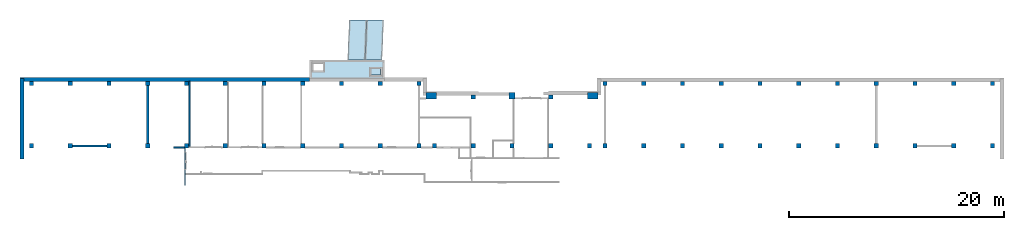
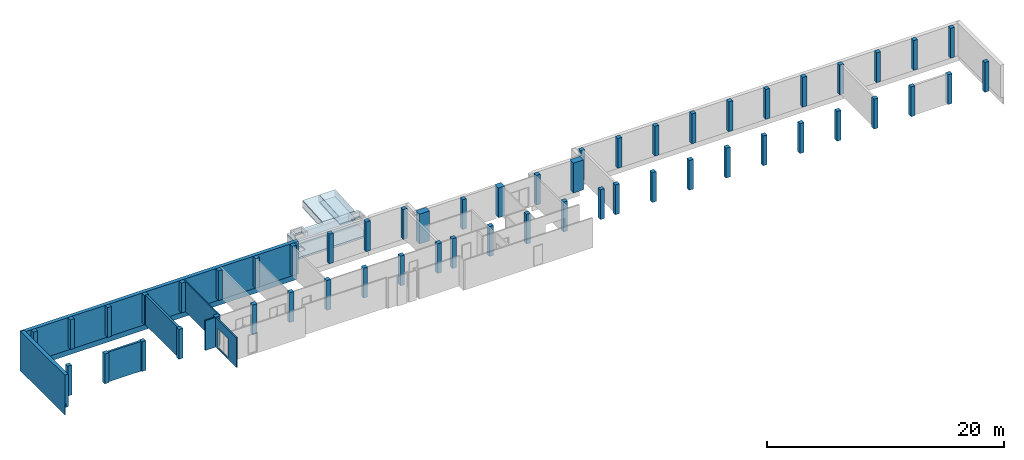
# One storey, part 1 of 6: 54 columns, 7 walls, 6 slabs, 4 openings.
"""IFC4 building model written with IfcOpenShell, lengths in metres."""

from ifc_helpers import new_model, entity, si_unit, converted_unit, derived_unit, frame, frame_2d, origin, origin_with_axes, place, context, subcontext, project, spatial, polyline, rectangle, outline, extrude, clip, bounded_halfspace, material, layer, layer_set, layer_usage, element, save


model = new_model("IFC4")

# Units and contexts
model_context = context("Model", 3, precision=1e-05, world=origin())
body_context = subcontext(model_context, "Body", "Model", "MODEL_VIEW")
ifc_project = project(units=[si_unit("LENGTHUNIT", "METRE"), si_unit("AREAUNIT", "SQUARE_METRE"), si_unit("VOLUMEUNIT", "CUBIC_METRE"), si_unit("MASSUNIT", "GRAM", prefix="KILO"), converted_unit("PLANEANGLEUNIT", "DEGREE", entity("IfcPlaneAngleMeasure", 0.0174532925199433), si_unit("PLANEANGLEUNIT", "RADIAN"), dimensions=[0, 0, 0, 0, 0, 0, 0]), derived_unit("THERMALTRANSMITTANCEUNIT", [(si_unit("POWERUNIT", "WATT"), 1), (si_unit("THERMODYNAMICTEMPERATUREUNIT", "KELVIN"), -1), (si_unit("LENGTHUNIT", "METRE"), -2)]), derived_unit("VOLUMETRICFLOWRATEUNIT", [(si_unit("LENGTHUNIT", "METRE"), 3), (converted_unit("TIMEUNIT", "hour", entity("IfcTimeMeasure", 3600.0), si_unit("TIMEUNIT", "SECOND"), dimensions=[0, 0, 1, 0, 0, 0, 0]), -1), (si_unit("LENGTHUNIT", "METRE"), -1)])], contexts=[model_context])

# Site, building, storey
site_placement = place(None, origin())
site = spatial("IfcSite", under=ifc_project, at=site_placement, Name="3. ASŘ", CompositionType="ELEMENT")
building_placement = place(site_placement, origin())
building = spatial("IfcBuilding", under=site, at=building_placement, Name="Pavilon B", CompositionType="ELEMENT")
storey_placement = place(building_placement, frame((0.0, 0.0, -3.3)))
storey = spatial("IfcBuildingStorey", under=building, at=storey_placement, Name="Půdorys 1.PP", CompositionType="ELEMENT", Elevation=-3.3)

# Columns
ifc_material_1 = material(Name="ZELEZOBETONOVÁ KCE")
column_1_placement = place(storey_placement, frame((47.85, -21.4, -0.12)))
element("IfcColumn", 1, at=column_1_placement, inside=storey, material=ifc_material_1, PredefinedType="COLUMN", context=body_context, shape_type="SweptSolid", body=[
    extrude(rectangle(XDim=0.4, YDim=0.4, at=frame_2d((-0.2, -0.2), x_axis=(-1.0, 0.0))), origin_with_axes(), (0.0, 0.0, 1.0), 3.07),
])
ifc_material_2 = material(Name="ZELEZOBETONOVÁ KCE")
column_2_placement = place(storey_placement, frame((6.80000000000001, -21.4, -0.12)))
element("IfcColumn", 2, at=column_2_placement, inside=storey, material=ifc_material_2, PredefinedType="COLUMN", context=body_context, shape_type="SweptSolid", body=[
    extrude(rectangle(XDim=0.4, YDim=0.4, at=frame_2d((-0.2, -0.2), x_axis=(-1.0, 0.0))), origin_with_axes(), (0.0, 0.0, 1.0), 3.07),
])
ifc_material_3 = material(Name="ZELEZOBETONOVÁ KCE")
column_3_placement = place(storey_placement, frame((3.20000000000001, -21.4, -0.12)))
element("IfcColumn", 3, at=column_3_placement, inside=storey, material=ifc_material_3, PredefinedType="COLUMN", context=body_context, shape_type="SweptSolid", body=[
    extrude(rectangle(XDim=0.4, YDim=0.4, at=frame_2d((-0.2, -0.2), x_axis=(-1.0, 0.0))), origin_with_axes(), (0.0, 0.0, 1.0), 3.07),
])
ifc_material_4 = material(Name="ZELEZOBETONOVÁ KCE")
column_4_placement = place(storey_placement, frame((-0.399999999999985, -21.4, -0.12)))
element("IfcColumn", 4, at=column_4_placement, inside=storey, material=ifc_material_4, PredefinedType="COLUMN", context=body_context, shape_type="SweptSolid", body=[
    extrude(rectangle(XDim=0.4, YDim=0.4, at=frame_2d((-0.2, -0.2), x_axis=(-1.0, 0.0))), origin_with_axes(), (0.0, 0.0, 1.0), 3.07),
])
ifc_material_5 = material(Name="ZELEZOBETONOVÁ KCE")
column_5_placement = place(storey_placement, frame((-3.99999999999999, -15.6, -0.12)))
element("IfcColumn", 5, at=column_5_placement, inside=storey, material=ifc_material_5, PredefinedType="COLUMN", context=body_context, shape_type="SweptSolid", body=[
    extrude(rectangle(XDim=0.4, YDim=0.4, at=frame_2d((-0.2, -0.2), x_axis=(-1.0, 0.0))), origin_with_axes(), (0.0, 0.0, 1.0), 3.07),
])
ifc_material_6 = material(Name="ZELEZOBETONOVÁ KCE")
column_6_placement = place(storey_placement, frame((-3.99999999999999, -21.4, -0.12)))
element("IfcColumn", 6, at=column_6_placement, inside=storey, material=ifc_material_6, PredefinedType="COLUMN", context=body_context, shape_type="SweptSolid", body=[
    extrude(rectangle(XDim=0.4, YDim=0.4, at=frame_2d((-0.2, -0.2), x_axis=(-1.0, 0.0))), origin_with_axes(), (0.0, 0.0, 1.0), 3.07),
])
ifc_material_7 = material(Name="ZELEZOBETONOVÁ KCE")
column_7_placement = place(storey_placement, frame((85.3, -21.4, -0.12)))
element("IfcColumn", 7, at=column_7_placement, inside=storey, material=ifc_material_7, PredefinedType="COLUMN", context=body_context, shape_type="SweptSolid", body=[
    extrude(rectangle(XDim=0.4, YDim=0.4, at=frame_2d((-0.2, -0.2), x_axis=(-1.0, 0.0))), origin_with_axes(), (0.0, 0.0, 1.0), 3.07),
])
ifc_material_8 = material(Name="ZELEZOBETONOVÁ KCE")
column_8_placement = place(storey_placement, frame((52.9, -21.4, -0.12)))
element("IfcColumn", 8, at=column_8_placement, inside=storey, material=ifc_material_8, PredefinedType="COLUMN", context=body_context, shape_type="SweptSolid", body=[
    extrude(rectangle(XDim=0.4, YDim=0.4, at=frame_2d((-0.2, -0.2), x_axis=(-1.0, 0.0))), origin_with_axes(), (0.0, 0.0, 1.0), 3.07),
])
ifc_material_9 = material(Name="ZELEZOBETONOVÁ KCE")
column_9_placement = place(storey_placement, frame((74.5, -21.4, -0.12)))
element("IfcColumn", 9, at=column_9_placement, inside=storey, material=ifc_material_9, PredefinedType="COLUMN", context=body_context, shape_type="SweptSolid", body=[
    extrude(rectangle(XDim=0.4, YDim=0.4, at=frame_2d((-0.2, -0.2), x_axis=(-1.0, 0.0))), origin_with_axes(), (0.0, 0.0, 1.0), 3.07),
])
ifc_material_10 = material(Name="ZELEZOBETONOVÁ KCE")
column_10_placement = place(storey_placement, frame((56.5, -21.4, -0.12)))
element("IfcColumn", 10, at=column_10_placement, inside=storey, material=ifc_material_10, PredefinedType="COLUMN", context=body_context, shape_type="SweptSolid", body=[
    extrude(rectangle(XDim=0.4, YDim=0.4, at=frame_2d((-0.2, -0.2), x_axis=(-1.0, 0.0))), origin_with_axes(), (0.0, 0.0, 1.0), 3.07),
])
ifc_material_11 = material(Name="ZELEZOBETONOVÁ KCE")
column_11_placement = place(storey_placement, frame((60.1, -21.4, -0.12)))
element("IfcColumn", 11, at=column_11_placement, inside=storey, material=ifc_material_11, PredefinedType="COLUMN", context=body_context, shape_type="SweptSolid", body=[
    extrude(rectangle(XDim=0.4, YDim=0.4, at=frame_2d((-0.2, -0.2), x_axis=(-1.0, 0.0))), origin_with_axes(), (0.0, 0.0, 1.0), 3.07),
])
ifc_material_12 = material(Name="ZELEZOBETONOVÁ KCE")
column_12_placement = place(storey_placement, frame((63.7, -21.4, -0.12)))
element("IfcColumn", 12, at=column_12_placement, inside=storey, material=ifc_material_12, PredefinedType="COLUMN", context=body_context, shape_type="SweptSolid", body=[
    extrude(rectangle(XDim=0.4, YDim=0.4, at=frame_2d((-0.2, -0.2), x_axis=(-1.0, 0.0))), origin_with_axes(), (0.0, 0.0, 1.0), 3.07),
])
ifc_material_13 = material(Name="ZELEZOBETONOVÁ KCE")
column_13_placement = place(storey_placement, frame((67.3, -21.4, -0.12)))
element("IfcColumn", 13, at=column_13_placement, inside=storey, material=ifc_material_13, PredefinedType="COLUMN", context=body_context, shape_type="SweptSolid", body=[
    extrude(rectangle(XDim=0.4, YDim=0.4, at=frame_2d((-0.2, -0.2), x_axis=(-1.0, 0.0))), origin_with_axes(), (0.0, 0.0, 1.0), 3.07),
])
ifc_material_14 = material(Name="ZELEZOBETONOVÁ KCE")
column_14_placement = place(storey_placement, frame((70.9, -21.4, -0.12)))
element("IfcColumn", 14, at=column_14_placement, inside=storey, material=ifc_material_14, PredefinedType="COLUMN", context=body_context, shape_type="SweptSolid", body=[
    extrude(rectangle(XDim=0.4, YDim=0.4, at=frame_2d((-0.2, -0.2), x_axis=(-1.0, 0.0))), origin_with_axes(), (0.0, 0.0, 1.0), 3.07),
])
ifc_material_15 = material(Name="ZELEZOBETONOVÁ KCE")
column_15_placement = place(storey_placement, frame((81.7, -21.4, -0.12)))
element("IfcColumn", 15, at=column_15_placement, inside=storey, material=ifc_material_15, PredefinedType="COLUMN", context=body_context, shape_type="SweptSolid", body=[
    extrude(rectangle(XDim=0.4, YDim=0.4, at=frame_2d((-0.2, -0.2), x_axis=(-1.0, 0.0))), origin_with_axes(), (0.0, 0.0, 1.0), 3.07),
])
ifc_material_16 = material(Name="ZELEZOBETONOVÁ KCE")
column_16_placement = place(storey_placement, frame((78.1, -21.4, -0.12)))
element("IfcColumn", 16, at=column_16_placement, inside=storey, material=ifc_material_16, PredefinedType="COLUMN", context=body_context, shape_type="SweptSolid", body=[
    extrude(rectangle(XDim=0.4, YDim=0.4, at=frame_2d((-0.2, -0.2), x_axis=(-1.0, 0.0))), origin_with_axes(), (0.0, 0.0, 1.0), 3.07),
])
ifc_material_17 = material(Name="ZELEZOBETONOVÁ KCE")
column_17_placement = place(storey_placement, frame((49.3, -21.4, -0.12)))
element("IfcColumn", 17, at=column_17_placement, inside=storey, material=ifc_material_17, PredefinedType="COLUMN", context=body_context, shape_type="SweptSolid", body=[
    extrude(rectangle(XDim=0.4, YDim=0.4, at=frame_2d((-0.2, -0.2), x_axis=(-1.0, 0.0))), origin_with_axes(), (0.0, 0.0, 1.0), 3.07),
])
ifc_material_18 = material(Name="ZELEZOBETONOVÁ KCE")
column_18_placement = place(storey_placement, frame((52.9, -15.6, -0.12)))
element("IfcColumn", 18, at=column_18_placement, inside=storey, material=ifc_material_18, PredefinedType="COLUMN", context=body_context, shape_type="SweptSolid", body=[
    extrude(rectangle(XDim=0.4, YDim=0.4, at=frame_2d((-0.2, -0.2), x_axis=(-1.0, 0.0))), origin_with_axes(), (0.0, 0.0, 1.0), 3.07),
])
ifc_material_19 = material(Name="ZELEZOBETONOVÁ KCE")
column_19_placement = place(storey_placement, frame((60.1, -15.6, -0.12)))
element("IfcColumn", 19, at=column_19_placement, inside=storey, material=ifc_material_19, PredefinedType="COLUMN", context=body_context, shape_type="SweptSolid", body=[
    extrude(rectangle(XDim=0.4, YDim=0.4, at=frame_2d((-0.2, -0.2), x_axis=(-1.0, 0.0))), origin_with_axes(), (0.0, 0.0, 1.0), 3.07),
])
ifc_material_20 = material(Name="ZELEZOBETONOVÁ KCE")
column_20_placement = place(storey_placement, frame((67.3, -15.6, -0.12)))
element("IfcColumn", 20, at=column_20_placement, inside=storey, material=ifc_material_20, PredefinedType="COLUMN", context=body_context, shape_type="SweptSolid", body=[
    extrude(rectangle(XDim=0.4, YDim=0.4, at=frame_2d((-0.2, -0.2), x_axis=(-1.0, 0.0))), origin_with_axes(), (0.0, 0.0, 1.0), 3.07),
])
ifc_material_21 = material(Name="ZELEZOBETONOVÁ KCE")
column_21_placement = place(storey_placement, frame((74.5, -15.6, -0.12)))
element("IfcColumn", 21, at=column_21_placement, inside=storey, material=ifc_material_21, PredefinedType="COLUMN", context=body_context, shape_type="SweptSolid", body=[
    extrude(rectangle(XDim=0.4, YDim=0.4, at=frame_2d((-0.2, -0.2), x_axis=(-1.0, 0.0))), origin_with_axes(), (0.0, 0.0, 1.0), 3.07),
])
ifc_material_22 = material(Name="ZELEZOBETONOVÁ KCE")
column_22_placement = place(storey_placement, frame((81.7, -15.6, -0.12)))
element("IfcColumn", 22, at=column_22_placement, inside=storey, material=ifc_material_22, PredefinedType="COLUMN", context=body_context, shape_type="SweptSolid", body=[
    extrude(rectangle(XDim=0.4, YDim=0.4, at=frame_2d((-0.2, -0.2), x_axis=(-1.0, 0.0))), origin_with_axes(), (0.0, 0.0, 1.0), 3.07),
])
ifc_material_23 = material(Name="ZELEZOBETONOVÁ KCE")
column_23_placement = place(storey_placement, frame((85.3, -15.6, -0.12)))
element("IfcColumn", 23, at=column_23_placement, inside=storey, material=ifc_material_23, PredefinedType="COLUMN", context=body_context, shape_type="SweptSolid", body=[
    extrude(rectangle(XDim=0.4, YDim=0.4, at=frame_2d((-0.2, -0.2), x_axis=(-1.0, 0.0))), origin_with_axes(), (0.0, 0.0, 1.0), 3.07),
])
ifc_material_24 = material(Name="ZELEZOBETONOVÁ KCE")
column_24_placement = place(storey_placement, frame((78.1, -15.6, -0.12)))
element("IfcColumn", 24, at=column_24_placement, inside=storey, material=ifc_material_24, PredefinedType="COLUMN", context=body_context, shape_type="SweptSolid", body=[
    extrude(rectangle(XDim=0.4, YDim=0.4, at=frame_2d((-0.2, -0.2), x_axis=(-1.0, 0.0))), origin_with_axes(), (0.0, 0.0, 1.0), 3.07),
])
ifc_material_25 = material(Name="ZELEZOBETONOVÁ KCE")
column_25_placement = place(storey_placement, frame((70.9, -15.6, -0.12)))
element("IfcColumn", 25, at=column_25_placement, inside=storey, material=ifc_material_25, PredefinedType="COLUMN", context=body_context, shape_type="SweptSolid", body=[
    extrude(rectangle(XDim=0.4, YDim=0.4, at=frame_2d((-0.2, -0.2), x_axis=(-1.0, 0.0))), origin_with_axes(), (0.0, 0.0, 1.0), 3.07),
])
ifc_material_26 = material(Name="ZELEZOBETONOVÁ KCE")
column_26_placement = place(storey_placement, frame((63.7, -15.6, -0.12)))
element("IfcColumn", 26, at=column_26_placement, inside=storey, material=ifc_material_26, PredefinedType="COLUMN", context=body_context, shape_type="SweptSolid", body=[
    extrude(rectangle(XDim=0.4, YDim=0.4, at=frame_2d((-0.2, -0.2), x_axis=(-1.0, 0.0))), origin_with_axes(), (0.0, 0.0, 1.0), 3.07),
])
ifc_material_27 = material(Name="ZELEZOBETONOVÁ KCE")
column_27_placement = place(storey_placement, frame((56.5, -15.6, -0.12)))
element("IfcColumn", 27, at=column_27_placement, inside=storey, material=ifc_material_27, PredefinedType="COLUMN", context=body_context, shape_type="SweptSolid", body=[
    extrude(rectangle(XDim=0.4, YDim=0.4, at=frame_2d((-0.2, -0.2), x_axis=(-1.0, 0.0))), origin_with_axes(), (0.0, 0.0, 1.0), 3.07),
])
ifc_material_28 = material(Name="ZELEZOBETONOVÁ KCE")
column_28_placement = place(storey_placement, frame((49.3, -15.6, -0.12)))
element("IfcColumn", 28, at=column_28_placement, inside=storey, material=ifc_material_28, PredefinedType="COLUMN", context=body_context, shape_type="SweptSolid", body=[
    extrude(rectangle(XDim=0.4, YDim=0.4, at=frame_2d((-0.2, -0.2), x_axis=(-1.0, 0.0))), origin_with_axes(), (0.0, 0.0, 1.0), 3.07),
])
ifc_material_29 = material(Name="ZELEZOBETONOVÁ KCE")
column_29_placement = place(storey_placement, frame((32.0, -15.6, -0.12)))
element("IfcColumn", 29, at=column_29_placement, inside=storey, material=ifc_material_29, PredefinedType="COLUMN", context=body_context, shape_type="SweptSolid", body=[
    extrude(rectangle(XDim=0.4, YDim=0.4, at=frame_2d((-0.2, -0.2), x_axis=(-1.0, 0.0))), origin_with_axes(), (0.0, 0.0, 1.0), 3.07),
])
ifc_material_30 = material(Name="ZELEZOBETONOVÁ KCE")
column_30_placement = place(storey_placement, frame((24.8, -15.6, -0.12)))
element("IfcColumn", 30, at=column_30_placement, inside=storey, material=ifc_material_30, PredefinedType="COLUMN", context=body_context, shape_type="SweptSolid", body=[
    extrude(rectangle(XDim=0.4, YDim=0.4, at=frame_2d((-0.2, -0.2), x_axis=(-1.0, 0.0))), origin_with_axes(), (0.0, 0.0, 1.0), 3.07),
])
ifc_material_31 = material(Name="ZELEZOBETONOVÁ KCE")
column_31_placement = place(storey_placement, frame((28.4, -15.6, -0.12)))
element("IfcColumn", 31, at=column_31_placement, inside=storey, material=ifc_material_31, PredefinedType="COLUMN", context=body_context, shape_type="SweptSolid", body=[
    extrude(rectangle(XDim=0.4, YDim=0.4, at=frame_2d((-0.2, -0.2), x_axis=(-1.0, 0.0))), origin_with_axes(), (0.0, 0.0, 1.0), 3.07),
])
ifc_material_32 = material(Name="ZELEZOBETONOVÁ KCE")
column_32_placement = place(storey_placement, frame((44.25, -16.85, -0.12)))
element("IfcColumn", 32, at=column_32_placement, inside=storey, material=ifc_material_32, PredefinedType="COLUMN", context=body_context, shape_type="SweptSolid", body=[
    extrude(rectangle(XDim=0.4, YDim=0.4, at=frame_2d((-0.2, -0.2), x_axis=(-1.0, 0.0))), origin_with_axes(), (0.0, 0.0, 1.0), 3.07),
])
ifc_material_33 = material(Name="ZELEZOBETONOVÁ KCE")
column_33_placement = place(storey_placement, frame((48.4449585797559, -16.65, -0.12)))
element("IfcColumn", 33, at=column_33_placement, inside=storey, material=ifc_material_33, PredefinedType="COLUMN", context=body_context, shape_type="SweptSolid", body=[
    extrude(rectangle(XDim=1.0, YDim=0.6, at=frame_2d((-0.5, -0.3), x_axis=(-1.0, 0.0))), origin_with_axes(), (0.0, 0.0, 1.0), 3.07),
])
ifc_material_34 = material(Name="ZELEZOBETONOVÁ KCE")
column_34_placement = place(storey_placement, frame((28.4, -21.4, -0.12)))
element("IfcColumn", 34, at=column_34_placement, inside=storey, material=ifc_material_34, PredefinedType="COLUMN", context=body_context, shape_type="SweptSolid", body=[
    extrude(rectangle(XDim=0.4, YDim=0.4, at=frame_2d((-0.2, -0.2), x_axis=(-1.0, 0.0))), origin_with_axes(), (0.0, 0.0, 1.0), 3.07),
])
ifc_material_35 = material(Name="ZELEZOBETONOVÁ KCE")
column_35_placement = place(storey_placement, frame((24.8, -21.4, -0.12)))
element("IfcColumn", 35, at=column_35_placement, inside=storey, material=ifc_material_35, PredefinedType="COLUMN", context=body_context, shape_type="SweptSolid", body=[
    extrude(rectangle(XDim=0.4, YDim=0.4, at=frame_2d((-0.2, -0.2), x_axis=(-1.0, 0.0))), origin_with_axes(), (0.0, 0.0, 1.0), 3.07),
])
ifc_material_36 = material(Name="ZELEZOBETONOVÁ KCE")
column_36_placement = place(storey_placement, frame((17.6, -21.4, -0.12)))
element("IfcColumn", 36, at=column_36_placement, inside=storey, material=ifc_material_36, PredefinedType="COLUMN", context=body_context, shape_type="SweptSolid", body=[
    extrude(rectangle(XDim=0.4, YDim=0.4, at=frame_2d((-0.2, -0.2), x_axis=(-1.0, 0.0))), origin_with_axes(), (0.0, 0.0, 1.0), 3.07),
])
ifc_material_37 = material(Name="ZELEZOBETONOVÁ KCE")
column_37_placement = place(storey_placement, frame((14.0, -21.4, -0.12)))
element("IfcColumn", 37, at=column_37_placement, inside=storey, material=ifc_material_37, PredefinedType="COLUMN", context=body_context, shape_type="SweptSolid", body=[
    extrude(rectangle(XDim=0.4, YDim=0.4, at=frame_2d((-0.2, -0.2), x_axis=(-1.0, 0.0))), origin_with_axes(), (0.0, 0.0, 1.0), 3.07),
])
ifc_material_38 = material(Name="ZELEZOBETONOVÁ KCE")
column_38_placement = place(storey_placement, frame((21.2, -21.4, -0.12)))
element("IfcColumn", 38, at=column_38_placement, inside=storey, material=ifc_material_38, PredefinedType="COLUMN", context=body_context, shape_type="SweptSolid", body=[
    extrude(rectangle(XDim=0.4, YDim=0.4, at=frame_2d((-0.2, -0.2), x_axis=(-1.0, 0.0))), origin_with_axes(), (0.0, 0.0, 1.0), 3.07),
])
ifc_material_39 = material(Name="ZELEZOBETONOVÁ KCE")
column_39_placement = place(storey_placement, frame((40.75, -16.65, -0.12)))
element("IfcColumn", 39, at=column_39_placement, inside=storey, material=ifc_material_39, PredefinedType="COLUMN", context=body_context, shape_type="SweptSolid", body=[
    extrude(rectangle(XDim=0.6, YDim=0.6, at=frame_2d((-0.3, -0.3), x_axis=(-1.0, 0.0))), origin_with_axes(), (0.0, 0.0, 1.0), 3.07),
])
ifc_material_40 = material(Name="ZELEZOBETONOVÁ KCE")
column_40_placement = place(storey_placement, frame((40.65, -21.4, -0.12)))
element("IfcColumn", 40, at=column_40_placement, inside=storey, material=ifc_material_40, PredefinedType="COLUMN", context=body_context, shape_type="SweptSolid", body=[
    extrude(rectangle(XDim=0.4, YDim=0.4, at=frame_2d((-0.2, -0.2), x_axis=(-1.0, 0.0))), origin_with_axes(), (0.0, 0.0, 1.0), 3.07),
])
ifc_material_41 = material(Name="ZELEZOBETONOVÁ KCE")
column_41_placement = place(storey_placement, frame((44.25, -21.4, -0.12)))
element("IfcColumn", 41, at=column_41_placement, inside=storey, material=ifc_material_41, PredefinedType="COLUMN", context=body_context, shape_type="SweptSolid", body=[
    extrude(rectangle(XDim=0.4, YDim=0.4, at=frame_2d((-0.2, -0.2), x_axis=(-1.0, 0.0))), origin_with_axes(), (0.0, 0.0, 1.0), 3.07),
])
ifc_material_42 = material(Name="ZELEZOBETONOVÁ KCE")
column_42_placement = place(storey_placement, frame((32.0, -21.4, -0.12)))
element("IfcColumn", 42, at=column_42_placement, inside=storey, material=ifc_material_42, PredefinedType="COLUMN", context=body_context, shape_type="SweptSolid", body=[
    extrude(rectangle(XDim=0.4, YDim=0.4, at=frame_2d((-0.2, -0.2), x_axis=(-1.0, 0.0))), origin_with_axes(), (0.0, 0.0, 1.0), 3.07),
])
ifc_material_43 = material(Name="ZELEZOBETONOVÁ KCE")
column_43_placement = place(storey_placement, frame((37.05, -21.4, -0.12)))
element("IfcColumn", 43, at=column_43_placement, inside=storey, material=ifc_material_43, PredefinedType="COLUMN", context=body_context, shape_type="SweptSolid", body=[
    extrude(rectangle(XDim=0.4, YDim=0.4, at=frame_2d((-0.2, -0.2), x_axis=(-1.0, 0.0))), origin_with_axes(), (0.0, 0.0, 1.0), 3.07),
])
ifc_material_44 = material(Name="ZELEZOBETONOVÁ KCE")
column_44_placement = place(storey_placement, frame((33.45, -21.4, -0.12)))
element("IfcColumn", 44, at=column_44_placement, inside=storey, material=ifc_material_44, PredefinedType="COLUMN", context=body_context, shape_type="SweptSolid", body=[
    extrude(rectangle(XDim=0.4, YDim=0.4, at=frame_2d((-0.2, -0.2), x_axis=(-1.0, 0.0))), origin_with_axes(), (0.0, 0.0, 1.0), 3.07),
])
ifc_material_45 = material(Name="ZELEZOBETONOVÁ KCE")
column_45_placement = place(storey_placement, frame((10.4, -21.4, -0.12)))
element("IfcColumn", 45, at=column_45_placement, inside=storey, material=ifc_material_45, PredefinedType="COLUMN", context=body_context, shape_type="SweptSolid", body=[
    extrude(rectangle(XDim=0.4, YDim=0.4, at=frame_2d((-0.2, -0.2), x_axis=(-1.0, 0.0))), origin_with_axes(), (0.0, 0.0, 1.0), 3.07),
])
ifc_material_46 = material(Name="ZELEZOBETONOVÁ KCE")
column_46_placement = place(storey_placement, frame((17.6, -15.6, -0.12)))
element("IfcColumn", 46, at=column_46_placement, inside=storey, material=ifc_material_46, PredefinedType="COLUMN", context=body_context, shape_type="SweptSolid", body=[
    extrude(rectangle(XDim=0.4, YDim=0.4, at=frame_2d((-0.2, -0.2), x_axis=(-1.0, 0.0))), origin_with_axes(), (0.0, 0.0, 1.0), 3.07),
])
ifc_material_47 = material(Name="ZELEZOBETONOVÁ KCE")
column_47_placement = place(storey_placement, frame((10.4, -15.6, -0.12)))
element("IfcColumn", 47, at=column_47_placement, inside=storey, material=ifc_material_47, PredefinedType="COLUMN", context=body_context, shape_type="SweptSolid", body=[
    extrude(rectangle(XDim=0.4, YDim=0.4, at=frame_2d((-0.2, -0.2), x_axis=(-1.0, 0.0))), origin_with_axes(), (0.0, 0.0, 1.0), 3.07),
])
ifc_material_48 = material(Name="ZELEZOBETONOVÁ KCE")
column_48_placement = place(storey_placement, frame((14.0, -15.6, -0.12)))
element("IfcColumn", 48, at=column_48_placement, inside=storey, material=ifc_material_48, PredefinedType="COLUMN", context=body_context, shape_type="SweptSolid", body=[
    extrude(rectangle(XDim=0.4, YDim=0.4, at=frame_2d((-0.2, -0.2), x_axis=(-1.0, 0.0))), origin_with_axes(), (0.0, 0.0, 1.0), 3.07),
])
ifc_material_49 = material(Name="ZELEZOBETONOVÁ KCE")
column_49_placement = place(storey_placement, frame((21.2, -15.6, -0.12)))
element("IfcColumn", 49, at=column_49_placement, inside=storey, material=ifc_material_49, PredefinedType="COLUMN", context=body_context, shape_type="SweptSolid", body=[
    extrude(rectangle(XDim=0.4, YDim=0.4, at=frame_2d((-0.2, -0.2), x_axis=(-1.0, 0.0))), origin_with_axes(), (0.0, 0.0, 1.0), 3.07),
])
ifc_material_50 = material(Name="ZELEZOBETONOVÁ KCE")
column_50_placement = place(storey_placement, frame((-0.399999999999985, -15.6, -0.12)))
element("IfcColumn", 50, at=column_50_placement, inside=storey, material=ifc_material_50, PredefinedType="COLUMN", context=body_context, shape_type="SweptSolid", body=[
    extrude(rectangle(XDim=0.4, YDim=0.4, at=frame_2d((-0.2, -0.2), x_axis=(-1.0, 0.0))), origin_with_axes(), (0.0, 0.0, 1.0), 3.07),
])
ifc_material_51 = material(Name="ZELEZOBETONOVÁ KCE")
column_51_placement = place(storey_placement, frame((3.20000000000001, -15.6, -0.12)))
element("IfcColumn", 51, at=column_51_placement, inside=storey, material=ifc_material_51, PredefinedType="COLUMN", context=body_context, shape_type="SweptSolid", body=[
    extrude(rectangle(XDim=0.4, YDim=0.4, at=frame_2d((-0.2, -0.2), x_axis=(-1.0, 0.0))), origin_with_axes(), (0.0, 0.0, 1.0), 3.07),
])
ifc_material_52 = material(Name="ZELEZOBETONOVÁ KCE")
column_52_placement = place(storey_placement, frame((6.80000000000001, -15.6, -0.12)))
element("IfcColumn", 52, at=column_52_placement, inside=storey, material=ifc_material_52, PredefinedType="COLUMN", context=body_context, shape_type="SweptSolid", body=[
    extrude(rectangle(XDim=0.4, YDim=0.4, at=frame_2d((-0.2, -0.2), x_axis=(-1.0, 0.0))), origin_with_axes(), (0.0, 0.0, 1.0), 3.07),
])
ifc_material_53 = material(Name="ZELEZOBETONOVÁ KCE")
column_53_placement = place(storey_placement, frame((33.4550414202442, -16.65, -0.12)))
element("IfcColumn", 53, at=column_53_placement, inside=storey, material=ifc_material_53, PredefinedType="COLUMN", context=body_context, shape_type="SweptSolid", body=[
    extrude(rectangle(XDim=1.0, YDim=0.6, at=frame_2d((-0.5, -0.3), x_axis=(-1.0, 0.0))), origin_with_axes(), (0.0, 0.0, 1.0), 3.07),
])
ifc_material_54 = material(Name="ZELEZOBETONOVÁ KCE")
column_54_placement = place(storey_placement, frame((37.05, -16.85, -0.12)))
element("IfcColumn", 54, at=column_54_placement, inside=storey, material=ifc_material_54, PredefinedType="COLUMN", context=body_context, shape_type="SweptSolid", body=[
    extrude(rectangle(XDim=0.4, YDim=0.4, at=frame_2d((-0.2, -0.2), x_axis=(-1.0, 0.0))), origin_with_axes(), (0.0, 0.0, 1.0), 3.07),
])

# Slabs
ifc_material_55 = material(Name="PREFA ŽB ENERGOKANÁL")
slab_1_placement = place(storey_placement, frame((26.8051617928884, -13.6107926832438, 1.62)))
element("IfcSlab", 55, at=slab_1_placement, inside=storey, material=ifc_material_55, PredefinedType="FLOOR", context=body_context, shape_type="SweptSolid", body=[
    extrude(outline(polyline([(1.70556758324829, 3.71033422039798), (0.154229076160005, 3.71033422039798), (0.0, 0.0), (1.55133850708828, 0.0), (1.70556758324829, 3.71033422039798)])), origin_with_axes(), (0.0, 0.0, 1.0), 0.1),
])
ifc_material_56 = material(Name="PREFA ŽB ENERGOKANÁL")
slab_2_placement = place(storey_placement, frame((25.1837628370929, -13.6107926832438, 1.62)))
element("IfcSlab", 56, at=slab_2_placement, inside=storey, material=ifc_material_56, PredefinedType="FLOOR", context=body_context, shape_type="SweptSolid", body=[
    extrude(outline(polyline([(1.7556107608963, 3.71033422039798), (0.154229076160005, 3.71033422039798), (0.0, 0.0), (1.6013816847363, 0.0), (1.7556107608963, 3.71033422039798)])), origin_with_axes(), (0.0, 0.0, 1.0), 0.1),
])

# Slab, opening
ifc_material_57 = material(Name="ZELEZOBETONOVÁ KCE")
slab_3_placement = place(storey_placement, frame((21.6430036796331, -15.35, 0.86)))
slab_3 = element("IfcSlab", 57, at=slab_3_placement, inside=storey, material=ifc_material_57, PredefinedType="FLOOR", context=body_context, shape_type="SweptSolid", body=[
    extrude(rectangle(XDim=6.95447232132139, YDim=1.73920731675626, at=frame_2d((3.47723616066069, 0.869603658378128), x_axis=(1.0, 0.0))), origin_with_axes(), (0.0, 0.0, 1.0), 0.2),
])
opening_1_placement = place(slab_3_placement, frame((0.35, 0.739207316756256, 0.0)))
element("IfcOpeningElement", 58, at=opening_1_placement, cuts=slab_3, Name="Prostup deskou", ObjectType="Opening", context=body_context, shape_type="SweptSolid", body=[
    extrude(rectangle(XDim=0.65, YDim=0.9, at=frame_2d((0.0, 0.0), x_axis=(0.0, -1.0))), frame((0.45, 0.325, 0.0), z_axis=(0.0, 0.0, 1.0), x_axis=(1.0, 0.0, 0.0)), (0.0, 0.0, 1.0), 0.2),
])

# Slabs
ifc_material_58 = material(Name="ZELEZOBETONOVÁ KCE")
slab_4_placement = place(storey_placement, frame((26.8051617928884, -13.6107926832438, 2.32)))
element("IfcSlab", 59, at=slab_4_placement, inside=storey, material=ifc_material_58, PredefinedType="FLOOR", context=body_context, shape_type="SweptSolid", body=[
    extrude(outline(polyline([(1.70556758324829, 3.71033422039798), (0.154229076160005, 3.71033422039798), (0.0, 0.0), (1.55133850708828, 0.0), (1.70556758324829, 3.71033422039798)])), origin_with_axes(), (0.0, 0.0, 1.0), 0.1),
])
ifc_material_59 = material(Name="ZELEZOBETONOVÁ KCE")
slab_5_placement = place(storey_placement, frame((25.1837628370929, -13.6107926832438, 2.32)))
element("IfcSlab", 60, at=slab_5_placement, inside=storey, material=ifc_material_59, PredefinedType="FLOOR", context=body_context, shape_type="SweptSolid", body=[
    extrude(outline(polyline([(1.7556107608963, 3.71033422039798), (0.154229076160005, 3.71033422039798), (0.0, 0.0), (1.6013816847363, 0.0), (1.7556107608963, 3.71033422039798)])), origin_with_axes(), (0.0, 0.0, 1.0), 0.1),
])

# Slab, openings
ifc_material_60 = material(Name="ZELEZOBETONOVÁ KCE")
slab_6_placement = place(storey_placement, frame((21.6430036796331, -15.35, 2.32)))
slab_6 = element("IfcSlab", 61, at=slab_6_placement, inside=storey, material=ifc_material_60, PredefinedType="FLOOR", context=body_context, shape_type="SweptSolid", body=[
    extrude(rectangle(XDim=6.95447232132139, YDim=1.73920731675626, at=frame_2d((3.47723616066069, 0.869603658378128), x_axis=(1.0, 0.0))), origin_with_axes(), (0.0, 0.0, 1.0), 0.2),
])
opening_2_placement = place(slab_6_placement, frame((5.70518313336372, 0.325, 0.0)))
element("IfcOpeningElement", 62, at=opening_2_placement, cuts=slab_6, Name="Prostup deskou", ObjectType="Opening", context=body_context, shape_type="SweptSolid", body=[
    extrude(rectangle(XDim=0.6, YDim=0.9, at=frame_2d((0.0, -3.63797880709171e-15), x_axis=(0.0, -1.0))), frame((0.45, 0.300000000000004, 0.0), z_axis=(0.0, 0.0, 1.0), x_axis=(1.0, 0.0, 0.0)), (0.0, 0.0, 1.0), 0.2),
])
opening_3_placement = place(slab_6_placement, frame((0.35, 0.739207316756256, 0.0)))
element("IfcOpeningElement", 63, at=opening_3_placement, cuts=slab_6, Name="Prostup deskou", ObjectType="Opening", context=body_context, shape_type="SweptSolid", body=[
    extrude(rectangle(XDim=0.65, YDim=0.9, at=frame_2d((0.0, 0.0), x_axis=(0.0, -1.0))), frame((0.45, 0.325, 0.0), z_axis=(0.0, 0.0, 1.0), x_axis=(1.0, 0.0, 0.0)), (0.0, 0.0, 1.0), 0.2),
])

# Walls
ifc_material_61 = material(Name="ZELEZOBETONOVÁ KCE")
ifc_layer_1 = layer(ifc_material_61, 0.2)
ifc_layer_set_1 = layer_set([ifc_layer_1])
ifc_layer_usage_1 = layer_usage(ifc_layer_set_1, "AXIS2", "POSITIVE", -0.1)
wall_1_placement = place(storey_placement, frame((-0.399999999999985, -21.7, -0.12)))
element("IfcWall", 64, at=wall_1_placement, inside=storey, material=ifc_layer_usage_1, Name="ZELEZOBETONOVÁ KCE", context=body_context, shape_type="SweptSolid", body=[
    extrude(rectangle(XDim=3.2, YDim=0.2, at=frame_2d((1.6, 0.1), x_axis=(1.0, 0.0))), origin_with_axes(), (0.0, 0.0, 1.0), 3.07),
])
ifc_material_62 = material(Name="ZELEZOBETONOVÁ KCE")
ifc_layer_2 = layer(ifc_material_62, 0.2)
ifc_layer_set_2 = layer_set([ifc_layer_2])
ifc_layer_usage_2 = layer_usage(ifc_layer_set_2, "AXIS2", "POSITIVE", -0.1)
wall_2_placement = place(storey_placement, frame((6.70000000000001, -21.4, -0.12), z_axis=(0.0, 0.0, 1.0), x_axis=(0.0, 1.0, 0.0)))
element("IfcWall", 65, at=wall_2_placement, inside=storey, material=ifc_layer_usage_2, Name="ZELEZOBETONOVÁ KCE", context=body_context, shape_type="SweptSolid", body=[
    extrude(rectangle(XDim=5.4, YDim=0.2, at=frame_2d((2.7, 0.1), x_axis=(1.0, 0.0))), origin_with_axes(), (0.0, 0.0, 1.0), 3.07),
])
ifc_material_63 = material(Name="ZELEZOBETONOVÁ KCE")
ifc_layer_3 = layer(ifc_material_63, 0.25)
ifc_material_64 = material(Name="LIGNOPOR")
ifc_layer_4 = layer(ifc_material_64, 0.025)
ifc_material_65 = material(Name="PÓROBETONOVÉ ZDIVO")
ifc_layer_5 = layer(ifc_material_65, 0.08)
ifc_layer_set_3 = layer_set([ifc_layer_3, ifc_layer_4, ifc_layer_5])
ifc_layer_usage_3 = layer_usage(ifc_layer_set_3, "AXIS2", "POSITIVE", 0.0)
wall_3_placement = place(storey_placement, frame((-4.91999999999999, -22.8, -1.15), z_axis=(0.0, 0.0, 1.0), x_axis=(0.0, 1.0, 0.0)))
element("IfcWall", 66, at=wall_3_placement, inside=storey, material=ifc_layer_usage_3, Name="ZELEZOBETONOVÁ KCE", context=body_context, shape_type="Clipping", body=[
    clip(clip(extrude(outline(polyline([(0.0, -0.355), (7.44999999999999, -0.355), (7.44999999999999, -0.105), (7.47499999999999, -0.105), (7.47499999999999, -0.08), (7.55499999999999, -0.08), (7.55499999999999, 0.0), (0.0, 0.0), (0.0, -0.355)])), frame((0.0, 0.355, 0.0), z_axis=(0.0, 0.0, 1.0), x_axis=(1.0, 0.0, 0.0)), (0.0, 0.0, 1.0), 4.1), bounded_halfspace(frame((3.725, 0.125, 0.750000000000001), z_axis=(0.0, 0.0, 1.0), x_axis=(0.0, -1.0, 0.0)), True, origin_with_axes(), polyline([(0.0, 0.249999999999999), (0.0, 0.0), (7.44999999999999, 0.0), (7.44999999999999, 0.249999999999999), (0.0, 0.249999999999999)]))), bounded_halfspace(frame((4.47999999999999, 0.26, 1.15), z_axis=(0.0, 0.0, 1.0), x_axis=(0.0, -1.0, 0.0)), True, origin_with_axes(), polyline([(0.0, 0.275), (0.0, 0.249999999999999), (7.44999999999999, 0.249999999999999), (7.47499999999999, 0.25), (7.47499999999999, 0.275), (0.0, 0.275)]))),
])
ifc_material_66 = material(Name="ZDIVO Z CDm")
ifc_layer_6 = layer(ifc_material_66, 0.125)
ifc_layer_set_4 = layer_set([ifc_layer_6])
ifc_layer_usage_4 = layer_usage(ifc_layer_set_4, "AXIS2", "POSITIVE", 0.0)
wall_4_placement = place(storey_placement, frame((10.4, -15.6, -0.12), z_axis=(0.0, 0.0, 1.0), x_axis=(0.0, -1.0, 0.0)))
element("IfcWall", 67, at=wall_4_placement, inside=storey, material=ifc_layer_usage_4, Name="ZDIVO Z CDm", context=body_context, shape_type="SweptSolid", body=[
    extrude(rectangle(XDim=6.07499999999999, YDim=0.125, at=frame_2d((3.0375, 0.0625), x_axis=(1.0, 0.0))), origin_with_axes(), (0.0, 0.0, 1.0), 3.07),
])

# Wall, opening
ifc_material_67 = material(Name="ZDIVO Z CDm")
ifc_layer_7 = layer(ifc_material_67, 0.125)
ifc_layer_set_5 = layer_set([ifc_layer_7])
ifc_layer_usage_5 = layer_usage(ifc_layer_set_5, "AXIS2", "POSITIVE", 0.0)
wall_5_placement = place(storey_placement, frame((10.0, -21.8, -0.12), z_axis=(0.0, 0.0, 1.0), x_axis=(0.0, -1.0, 0.0)))
wall_5 = element("IfcWall", 68, at=wall_5_placement, inside=storey, material=ifc_layer_usage_5, Name="ZDIVO Z CDm", context=body_context, shape_type="SweptSolid", body=[
    extrude(rectangle(XDim=3.475, YDim=0.125, at=frame_2d((1.7375, 0.0625), x_axis=(1.0, 0.0))), origin_with_axes(), (0.0, 0.0, 1.0), 3.07),
])
opening_4_placement = place(wall_5_placement, frame((2.02499999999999, 0.125, 0.12), z_axis=(0.0, -1.0, 0.0), x_axis=(0.0, 0.0, 1.0)))
element("IfcOpeningElement", 69, at=opening_4_placement, cuts=wall_5, Name="Dveřní otvor", ObjectType="Opening", context=body_context, shape_type="SweptSolid", body=[
    extrude(outline(polyline([(0.0, 1.7), (2.02, 1.7), (2.02, 0.0), (0.0, 0.0), (0.0, 1.7)])), origin_with_axes(), (0.0, 0.0, 1.0), 0.125),
])

# Walls
ifc_material_68 = material(Name="ZDIVO Z CDm")
ifc_layer_8 = layer(ifc_material_68, 0.125)
ifc_layer_set_6 = layer_set([ifc_layer_8])
ifc_layer_usage_6 = layer_usage(ifc_layer_set_6, "AXIS2", "POSITIVE", 0.0)
wall_6_placement = place(storey_placement, frame((9.00000000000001, -21.8, -0.12)))
element("IfcWall", 70, at=wall_6_placement, inside=storey, material=ifc_layer_usage_6, Name="ZDIVO Z CDm", context=body_context, shape_type="SweptSolid", body=[
    extrude(rectangle(XDim=1.0, YDim=0.125, at=frame_2d((0.5, 0.0625), x_axis=(1.0, 0.0))), origin_with_axes(), (0.0, 0.0, 1.0), 3.07),
])
ifc_material_69 = material(Name="ZELEZOBETONOVÁ KCE")
ifc_layer_9 = layer(ifc_material_69, 0.25)
ifc_material_70 = material(Name="LIGNOPOR")
ifc_layer_10 = layer(ifc_material_70, 0.025)
ifc_material_71 = material(Name="PÓROBETONOVÉ ZDIVO")
ifc_layer_11 = layer(ifc_material_71, 0.08)
ifc_layer_set_7 = layer_set([ifc_layer_9, ifc_layer_10, ifc_layer_11])
ifc_layer_usage_7 = layer_usage(ifc_layer_set_7, "AXIS2", "POSITIVE", 0.0)
wall_7_placement = place(storey_placement, frame((-4.91999999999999, -15.6, -1.15)))
element("IfcWall", 71, at=wall_7_placement, inside=storey, material=ifc_layer_usage_7, Name="ZELEZOBETONOVÁ KCE", context=body_context, shape_type="Clipping", body=[
    clip(clip(extrude(outline(polyline([(0.0, 0.355), (0.0, 0.275), (0.025, 0.275), (0.025, 0.25), (0.275, 0.25), (0.275, 0.0), (26.8380036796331, 0.0), (26.8380036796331, 0.355), (0.0, 0.355)])), frame((-0.275, 0.0, 0.0), z_axis=(0.0, 0.0, 1.0), x_axis=(1.0, 0.0, 0.0)), (0.0, 0.0, 1.0), 4.1), bounded_halfspace(frame((13.2815018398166, 0.125, 0.750000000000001), z_axis=(0.0, 0.0, 1.0), x_axis=(0.0, -1.0, 0.0)), True, origin_with_axes(), polyline([(0.0, 0.25), (0.0, 0.0), (26.5630036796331, 0.0), (26.5630036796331, 0.25), (0.0, 0.25)]))), bounded_halfspace(frame((10.5252014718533, 0.259999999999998, 1.15), z_axis=(0.0, 0.0, 1.0), x_axis=(0.0, -1.0, 0.0)), True, origin_with_axes(), polyline([(-0.25, 0.274999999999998), (-0.25, 0.249999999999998), (0.0, 0.25), (26.5630036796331, 0.25), (26.5630036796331, 0.274999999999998), (-0.25, 0.274999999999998)]))),
])

save(model, "model.ifc")
